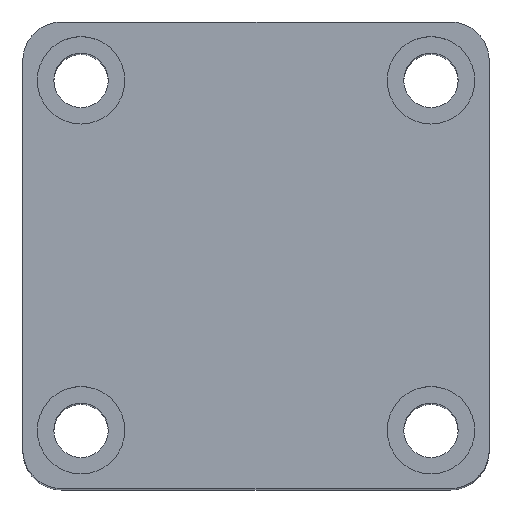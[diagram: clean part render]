
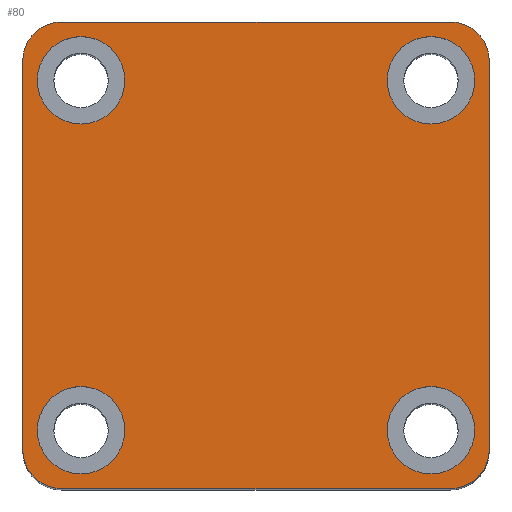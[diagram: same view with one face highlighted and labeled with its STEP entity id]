
A CAD part, top view. The second image highlights one B-rep face of the part: STEP entity #80.
In plain terms, the highlighted planar face has unit normal (0, 0, 1).
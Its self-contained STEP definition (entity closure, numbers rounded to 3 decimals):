
#80 = ADVANCED_FACE ( 'NONE', ( #403, #382, #389, #383, #385 ), #2005, .T. ) ;
#94 = VERTEX_POINT ( 'NONE', #1989 ) ;
#96 = VERTEX_POINT ( 'NONE', #1976 ) ;
#98 = VERTEX_POINT ( 'NONE', #1974 ) ;
#99 = VERTEX_POINT ( 'NONE', #1973 ) ;
#103 = VERTEX_POINT ( 'NONE', #1968 ) ;
#104 = VERTEX_POINT ( 'NONE', #1967 ) ;
#106 = VERTEX_POINT ( 'NONE', #1965 ) ;
#128 = VERTEX_POINT ( 'NONE', #1938 ) ;
#132 = VERTEX_POINT ( 'NONE', #1933 ) ;
#134 = VERTEX_POINT ( 'NONE', #1929 ) ;
#135 = VERTEX_POINT ( 'NONE', #1928 ) ;
#382 = FACE_BOUND ( 'NONE', #756, .T. ) ;
#383 = FACE_BOUND ( 'NONE', #720, .T. ) ;
#385 = FACE_OUTER_BOUND ( 'NONE', #739, .T. ) ;
#389 = FACE_BOUND ( 'NONE', #719, .T. ) ;
#403 = FACE_BOUND ( 'NONE', #718, .T. ) ;
#516 = CIRCLE ( 'NONE', #2621, 4.5 ) ;
#574 = ORIENTED_EDGE ( 'NONE', *, *, #1404, .T. ) ;
#583 = ORIENTED_EDGE ( 'NONE', *, *, #1400, .F. ) ;
#584 = ORIENTED_EDGE ( 'NONE', *, *, #1322, .F. ) ;
#585 = ORIENTED_EDGE ( 'NONE', *, *, #1399, .F. ) ;
#586 = ORIENTED_EDGE ( 'NONE', *, *, #1313, .F. ) ;
#587 = ORIENTED_EDGE ( 'NONE', *, *, #1398, .F. ) ;
#588 = ORIENTED_EDGE ( 'NONE', *, *, #2246, .F. ) ;
#589 = ORIENTED_EDGE ( 'NONE', *, *, #1397, .F. ) ;
#592 = ORIENTED_EDGE ( 'NONE', *, *, #1377, .T. ) ;
#593 = ORIENTED_EDGE ( 'NONE', *, *, #1403, .T. ) ;
#594 = ORIENTED_EDGE ( 'NONE', *, *, #1392, .T. ) ;
#595 = ORIENTED_EDGE ( 'NONE', *, *, #1402, .T. ) ;
#596 = ORIENTED_EDGE ( 'NONE', *, *, #1385, .T. ) ;
#597 = ORIENTED_EDGE ( 'NONE', *, *, #1401, .T. ) ;
#598 = ORIENTED_EDGE ( 'NONE', *, *, #1383, .T. ) ;
#599 = ORIENTED_EDGE ( 'NONE', *, *, #1327, .F. ) ;
#662 = VERTEX_POINT ( 'NONE', #1913 ) ;
#718 = EDGE_LOOP ( 'NONE', ( #589, #588 ) ) ;
#719 = EDGE_LOOP ( 'NONE', ( #585, #584 ) ) ;
#720 = EDGE_LOOP ( 'NONE', ( #583, #599 ) ) ;
#739 = EDGE_LOOP ( 'NONE', ( #598, #597, #596, #595, #594, #593, #592, #574 ) ) ;
#756 = EDGE_LOOP ( 'NONE', ( #587, #586 ) ) ;
#858 = VERTEX_POINT ( 'NONE', #1866 ) ;
#862 = VERTEX_POINT ( 'NONE', #1859 ) ;
#864 = VERTEX_POINT ( 'NONE', #1869 ) ;
#865 = VERTEX_POINT ( 'NONE', #1857 ) ;
#925 = AXIS2_PLACEMENT_3D ( 'NONE', #2497, #2490, #2489 ) ;
#1034 = DIRECTION ( 'NONE',  ( 1., 0., 0. ) ) ;
#1057 = DIRECTION ( 'NONE',  ( 0., 0., 1. ) ) ;
#1083 = CARTESIAN_POINT ( 'NONE',  ( 18., -18., 85. ) ) ;
#1110 = DIRECTION ( 'NONE',  ( 1., 0., 0. ) ) ;
#1111 = DIRECTION ( 'NONE',  ( 0., 0., 1. ) ) ;
#1112 = CARTESIAN_POINT ( 'NONE',  ( 20., 20., 85. ) ) ;
#1114 = DIRECTION ( 'NONE',  ( 1., 0., 0. ) ) ;
#1115 = DIRECTION ( 'NONE',  ( 0., 0., 1. ) ) ;
#1116 = CARTESIAN_POINT ( 'NONE',  ( 20., -20., 85. ) ) ;
#1117 = DIRECTION ( 'NONE',  ( 1., 0., 0. ) ) ;
#1119 = DIRECTION ( 'NONE',  ( 0., 0., 1. ) ) ;
#1120 = CARTESIAN_POINT ( 'NONE',  ( -20., -20., 85. ) ) ;
#1125 = DIRECTION ( 'NONE',  ( 1., 0., 0. ) ) ;
#1126 = DIRECTION ( 'NONE',  ( 0., 0., 1. ) ) ;
#1128 = CARTESIAN_POINT ( 'NONE',  ( -20., 20., 85. ) ) ;
#1130 = DIRECTION ( 'NONE',  ( 1., 0., 0. ) ) ;
#1131 = DIRECTION ( 'NONE',  ( 0., 0., 1. ) ) ;
#1132 = CARTESIAN_POINT ( 'NONE',  ( 18., -18., 85. ) ) ;
#1133 = DIRECTION ( 'NONE',  ( 1., 0., 0. ) ) ;
#1134 = DIRECTION ( 'NONE',  ( 0., 0., 1. ) ) ;
#1135 = CARTESIAN_POINT ( 'NONE',  ( -18., -18., 85. ) ) ;
#1136 = DIRECTION ( 'NONE',  ( 1., 0., 0. ) ) ;
#1137 = DIRECTION ( 'NONE',  ( 0., 0., 1. ) ) ;
#1138 = CARTESIAN_POINT ( 'NONE',  ( 18., 18., 85. ) ) ;
#1139 = DIRECTION ( 'NONE',  ( 1., 0., 0. ) ) ;
#1140 = DIRECTION ( 'NONE',  ( 0., 0., 1. ) ) ;
#1143 = CARTESIAN_POINT ( 'NONE',  ( -18., 18., 85. ) ) ;
#1158 = DIRECTION ( 'NONE',  ( 1., 0., 0. ) ) ;
#1161 = CARTESIAN_POINT ( 'NONE',  ( -24., -24., 85. ) ) ;
#1181 = DIRECTION ( 'NONE',  ( 0., -1., 0. ) ) ;
#1184 = CARTESIAN_POINT ( 'NONE',  ( -24., 24., 85. ) ) ;
#1188 = DIRECTION ( 'NONE',  ( -1., 0., 0. ) ) ;
#1191 = CARTESIAN_POINT ( 'NONE',  ( -24., 24., 85. ) ) ;
#1216 = DIRECTION ( 'NONE',  ( 0., 1., 0. ) ) ;
#1217 = CARTESIAN_POINT ( 'NONE',  ( 24., 24., 85. ) ) ;
#1243 = DIRECTION ( 'NONE',  ( 1., 0., 0. ) ) ;
#1245 = DIRECTION ( 'NONE',  ( 0., 0., 1. ) ) ;
#1249 = CARTESIAN_POINT ( 'NONE',  ( -18., -18., 85. ) ) ;
#1313 = EDGE_CURVE ( 'NONE', #662, #865, #516, .T. ) ;
#1322 = EDGE_CURVE ( 'NONE', #858, #134, #1772, .T. ) ;
#1327 = EDGE_CURVE ( 'NONE', #135, #864, #1764, .T. ) ;
#1377 = EDGE_CURVE ( 'NONE', #132, #128, #1692, .T. ) ;
#1383 = EDGE_CURVE ( 'NONE', #103, #99, #1681, .T. ) ;
#1385 = EDGE_CURVE ( 'NONE', #104, #98, #1677, .T. ) ;
#1392 = EDGE_CURVE ( 'NONE', #96, #94, #1664, .T. ) ;
#1397 = EDGE_CURVE ( 'NONE', #106, #862, #1655, .T. ) ;
#1398 = EDGE_CURVE ( 'NONE', #865, #662, #1659, .T. ) ;
#1399 = EDGE_CURVE ( 'NONE', #134, #858, #1652, .T. ) ;
#1400 = EDGE_CURVE ( 'NONE', #864, #135, #1651, .T. ) ;
#1401 = EDGE_CURVE ( 'NONE', #99, #104, #1650, .T. ) ;
#1402 = EDGE_CURVE ( 'NONE', #98, #96, #1649, .T. ) ;
#1403 = EDGE_CURVE ( 'NONE', #94, #132, #1648, .T. ) ;
#1404 = EDGE_CURVE ( 'NONE', #128, #103, #1647, .T. ) ;
#1581 = CIRCLE ( 'NONE', #925, 4.5 ) ;
#1647 = CIRCLE ( 'NONE', #2579, 4. ) ;
#1648 = CIRCLE ( 'NONE', #2580, 4. ) ;
#1649 = CIRCLE ( 'NONE', #2581, 4. ) ;
#1650 = CIRCLE ( 'NONE', #2582, 4. ) ;
#1651 = CIRCLE ( 'NONE', #2583, 4.5 ) ;
#1652 = CIRCLE ( 'NONE', #2584, 4.5 ) ;
#1655 = CIRCLE ( 'NONE', #2586, 4.5 ) ;
#1659 = CIRCLE ( 'NONE', #2585, 4.5 ) ;
#1661 = VECTOR ( 'NONE', #1158, 1000. ) ;
#1664 = LINE ( 'NONE', #1161, #1661 ) ;
#1674 = VECTOR ( 'NONE', #1181, 1000. ) ;
#1677 = LINE ( 'NONE', #1184, #1674 ) ;
#1678 = VECTOR ( 'NONE', #1188, 1000. ) ;
#1681 = LINE ( 'NONE', #1191, #1678 ) ;
#1690 = VECTOR ( 'NONE', #1216, 1000. ) ;
#1692 = LINE ( 'NONE', #1217, #1690 ) ;
#1764 = CIRCLE ( 'NONE', #2614, 4.5 ) ;
#1772 = CIRCLE ( 'NONE', #2618, 4.5 ) ;
#1792 = DIRECTION ( 'NONE',  ( 1., 0., 0. ) ) ;
#1793 = DIRECTION ( 'NONE',  ( 0., 0., 1. ) ) ;
#1794 = CARTESIAN_POINT ( 'NONE',  ( 18., 18., 85. ) ) ;
#1857 = CARTESIAN_POINT ( 'NONE',  ( 22.5, 18., 85. ) ) ;
#1859 = CARTESIAN_POINT ( 'NONE',  ( -22.5, 18., 85. ) ) ;
#1866 = CARTESIAN_POINT ( 'NONE',  ( -22.5, -18., 85. ) ) ;
#1869 = CARTESIAN_POINT ( 'NONE',  ( 22.5, -18., 85. ) ) ;
#1913 = CARTESIAN_POINT ( 'NONE',  ( 13.5, 18., 85. ) ) ;
#1928 = CARTESIAN_POINT ( 'NONE',  ( 13.5, -18., 85. ) ) ;
#1929 = CARTESIAN_POINT ( 'NONE',  ( -13.5, -18., 85. ) ) ;
#1933 = CARTESIAN_POINT ( 'NONE',  ( 24., -20., 85. ) ) ;
#1938 = CARTESIAN_POINT ( 'NONE',  ( 24., 20., 85. ) ) ;
#1965 = CARTESIAN_POINT ( 'NONE',  ( -13.5, 18., 85. ) ) ;
#1967 = CARTESIAN_POINT ( 'NONE',  ( -24., 20., 85. ) ) ;
#1968 = CARTESIAN_POINT ( 'NONE',  ( 20., 24., 85. ) ) ;
#1973 = CARTESIAN_POINT ( 'NONE',  ( -20., 24., 85. ) ) ;
#1974 = CARTESIAN_POINT ( 'NONE',  ( -24., -20., 85. ) ) ;
#1976 = CARTESIAN_POINT ( 'NONE',  ( -20., -24., 85. ) ) ;
#1989 = CARTESIAN_POINT ( 'NONE',  ( 20., -24., 85. ) ) ;
#2002 = DIRECTION ( 'NONE',  ( 1., 0., 0. ) ) ;
#2005 = PLANE ( 'NONE',  #2631 ) ;
#2011 = CARTESIAN_POINT ( 'NONE',  ( 0., 0., 85. ) ) ;
#2012 = DIRECTION ( 'NONE',  ( 0., 0., 1. ) ) ;
#2246 = EDGE_CURVE ( 'NONE', #862, #106, #1581, .T. ) ;
#2489 = DIRECTION ( 'NONE',  ( 1., 0., 0. ) ) ;
#2490 = DIRECTION ( 'NONE',  ( 0., 0., 1. ) ) ;
#2497 = CARTESIAN_POINT ( 'NONE',  ( -18., 18., 85. ) ) ;
#2579 = AXIS2_PLACEMENT_3D ( 'NONE', #1112, #1111, #1110 ) ;
#2580 = AXIS2_PLACEMENT_3D ( 'NONE', #1116, #1115, #1114 ) ;
#2581 = AXIS2_PLACEMENT_3D ( 'NONE', #1120, #1119, #1117 ) ;
#2582 = AXIS2_PLACEMENT_3D ( 'NONE', #1128, #1126, #1125 ) ;
#2583 = AXIS2_PLACEMENT_3D ( 'NONE', #1132, #1131, #1130 ) ;
#2584 = AXIS2_PLACEMENT_3D ( 'NONE', #1135, #1134, #1133 ) ;
#2585 = AXIS2_PLACEMENT_3D ( 'NONE', #1138, #1137, #1136 ) ;
#2586 = AXIS2_PLACEMENT_3D ( 'NONE', #1143, #1140, #1139 ) ;
#2614 = AXIS2_PLACEMENT_3D ( 'NONE', #1083, #1057, #1034 ) ;
#2618 = AXIS2_PLACEMENT_3D ( 'NONE', #1249, #1245, #1243 ) ;
#2621 = AXIS2_PLACEMENT_3D ( 'NONE', #1794, #1793, #1792 ) ;
#2631 = AXIS2_PLACEMENT_3D ( 'NONE', #2011, #2012, #2002 ) ;
